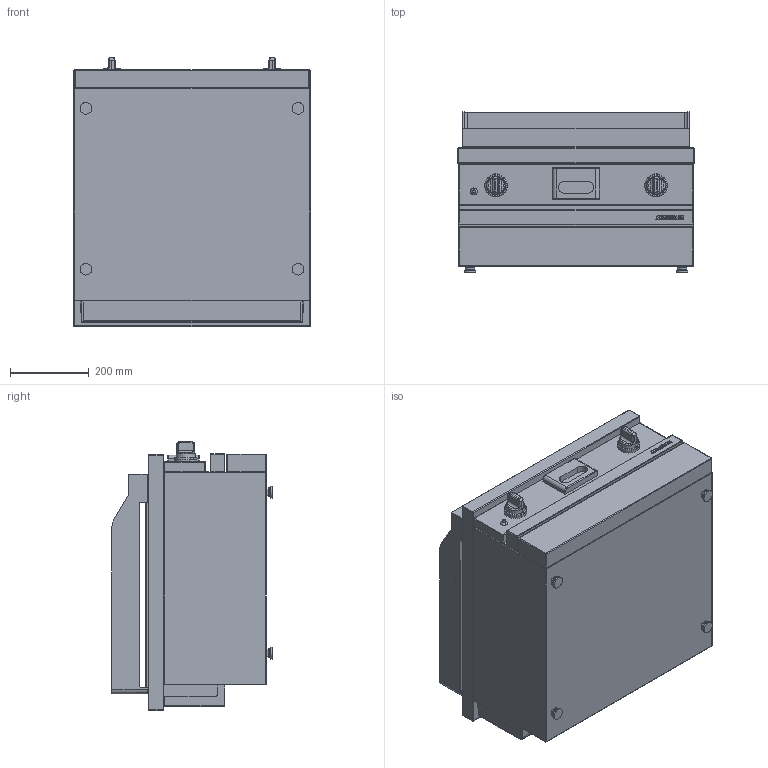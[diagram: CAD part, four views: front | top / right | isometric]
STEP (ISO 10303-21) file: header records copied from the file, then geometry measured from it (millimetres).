
FILE_DESCRIPTION((''),'2;1');
FILE_NAME('CSG610SLR_EXPORT_STEP_ASM','2017-11-22T',('r.avril'),(''),'PRO/ENGINEER BY PARAMETRIC TECHNOLOGY CORPORATION, 2014200','PRO/ENGINEER BY PARAMETRIC TECHNOLOGY CORPORATION, 2014200','');
FILE_SCHEMA(('AP203_CONFIGURATION_CONTROLLED_3D_DESIGN_OF_MECHANICAL_PARTS_AND_ASSEMBLIES_MIM_LF { 1 0 10303 403 2 1 2 }'));
Length unit declared in the file: millimetre
Products named in the file (11): SNACKS_AMB_600_EXPORT_STEP; TABLE_610_GRILLADE; TABLE_610_GRILLADE_ASM; MANETTE_AMB_EXPORT_STEP; ALLUMEUR_EXPORT_STEP; TIROIR_GRILLADE_EXPORT_STEP; CEINTURE_PLAQUE_GRILLADE_600; 50288900; 50293100; 65070005_ASM; CSG610SLR_EXPORT_STEP_ASM
Assembly tree (11 placements, depth 3):
  CSG610SLR_EXPORT_STEP_ASM
    SNACKS_AMB_600_EXPORT_STEP
    TABLE_610_GRILLADE_ASM
      TABLE_610_GRILLADE
    MANETTE_AMB_EXPORT_STEP  x2
    ALLUMEUR_EXPORT_STEP
    TIROIR_GRILLADE_EXPORT_STEP
    65070005_ASM
      CEINTURE_PLAQUE_GRILLADE_600
      50288900
      50293100
Bounding box: 600 x 407.33 x 682.5 mm (x, y, z)
Volume: 53109063.4 mm3; surface area: 4136787.5 mm2
Topology: 14 solids, 40 shells, 705 faces, 2392 edges, 1983 vertices
Faces by surface type: plane 276, cylinder 211, cone 106, torus 48, sphere 40, bspline 24
Entity records: 32299 total; most frequent: CARTESIAN_POINT 8171, DIRECTION 3896, ORIENTED_EDGE 3583, EDGE_CURVE 2032, VERTEX_POINT 1440, AXIS2_PLACEMENT_3D 1343, VECTOR 1177, LINE 1177
